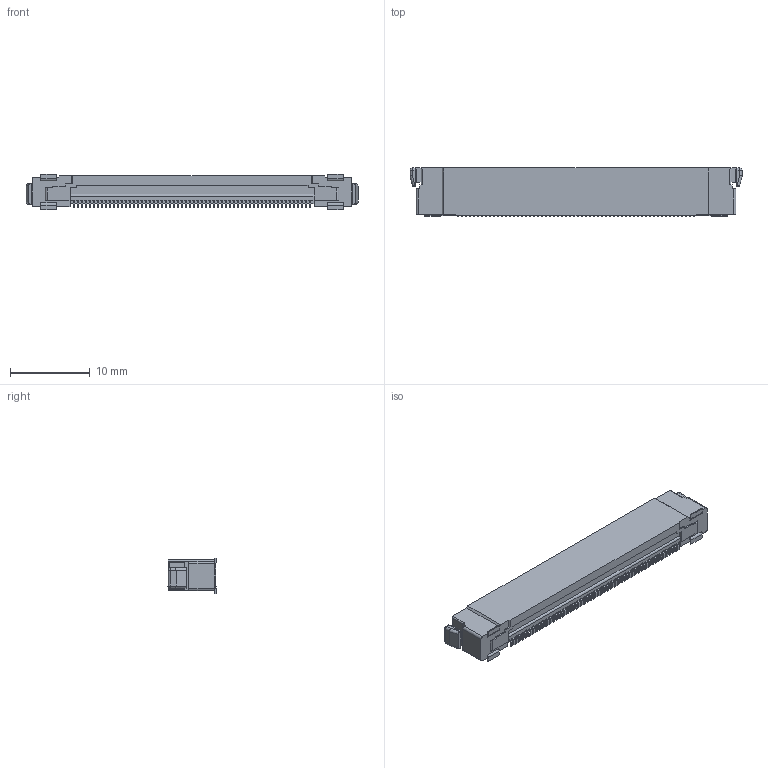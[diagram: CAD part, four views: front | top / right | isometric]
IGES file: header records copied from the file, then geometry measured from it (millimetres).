
Start section: SolidWorks IGES file using analytic representation for surfaces
Global section: file name: C:\Documents and Settings\kaihatsu-3dcad-4\デスクトップ\se-vt 3ddata\IGES\20539-060ExxxC ASSY IGES R5 ALL.IGS; native system: SolidWorks 2011; preprocessor: SolidWorks 2011; author: kaihatsu-3dcad-4; date: 121019.154313; units: millimetre
Bounding box: 41.5 x 6 x 4.5 mm (x, y, z)
Surface area: 945.5 mm2 (no closed solid volume)
Topology: 0 solids, 0 shells, 867 faces, 5744 edges, 5740 vertices
Faces by surface type: bspline 590, revolution 277
